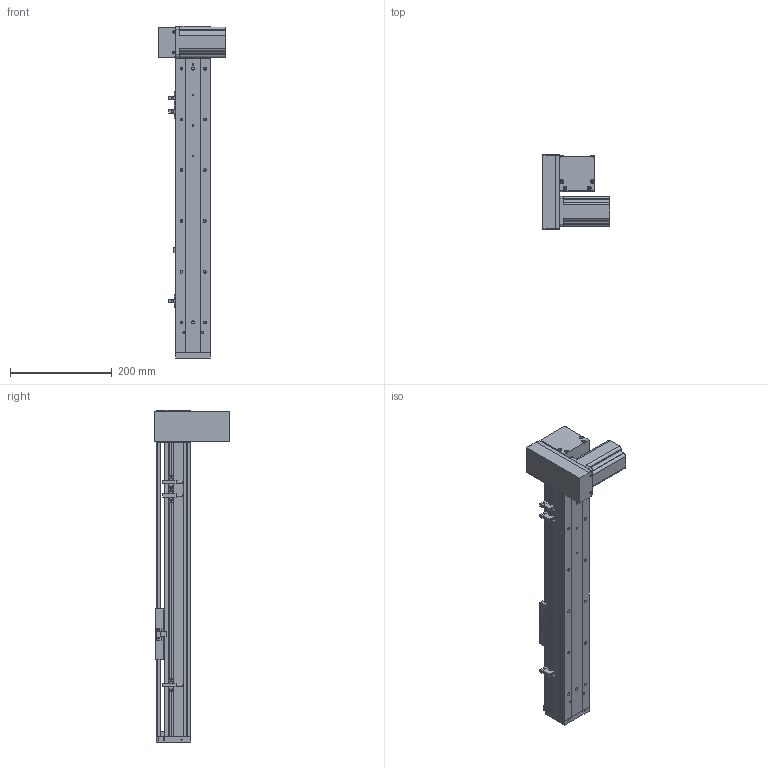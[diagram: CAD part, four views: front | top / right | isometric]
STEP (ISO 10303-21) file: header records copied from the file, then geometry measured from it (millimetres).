
FILE_DESCRIPTION (( 'STEP AP203' ), '1' );
FILE_NAME ('ML68-S400-DR.STEP', '2016-08-05T00:42:38', ( '' ), ( '' ), 'SwSTEP 2.0', 'SolidWorks 2014', '' );
FILE_SCHEMA (( 'CONFIG_CONTROL_DESIGN' ));
Length unit declared in the file: millimetre
Products named in the file (12): ML68傷啣; QS68左右折电机板罩子; ML68雄赽釱; ML68-BL傷啣; QS68酘衵殏萇儂啣; 葩璃 ML68菁釱^ML68-S400-DR; 三协电机MH201N2_預設; 60換覜結え; ML68滅鳥啣盓傅輸; ML68奻裔^ML68-S400-DR; 換覜ん; ML68-S400-DR
Assembly tree (13 placements, depth 2):
  ML68-S400-DR
    葩璃 ML68菁釱^ML68-S400-DR
    ML68奻裔^ML68-S400-DR
    ML68傷啣
    ML68-BL傷啣
    60換覜結え
    換覜ん  x3
    三协电机MH201N2_預設
    ML68雄赽釱
    QS68酘衵殏萇儂啣
    QS68左右折电机板罩子
    ML68滅鳥啣盓傅輸
Bounding box: 133.5 x 148 x 654 mm (x, y, z)
Volume: 1431259.8 mm3; surface area: 508378.2 mm2
Topology: 13 solids, 13 shells, 887 faces, 2426 edges, 1537 vertices
Faces by surface type: cylinder 402, plane 389, cone 96
Entity records: 27982 total; most frequent: CARTESIAN_POINT 5278, DIRECTION 4592, ORIENTED_EDGE 4352, EDGE_CURVE 2176, AXIS2_PLACEMENT_3D 1655, VERTEX_POINT 1425, VECTOR 1282, LINE 1282
